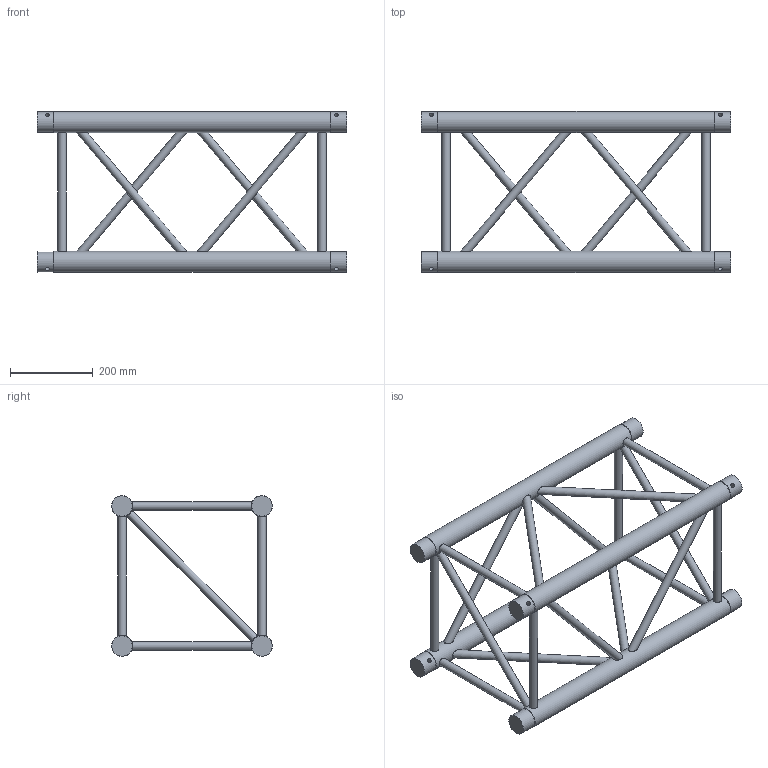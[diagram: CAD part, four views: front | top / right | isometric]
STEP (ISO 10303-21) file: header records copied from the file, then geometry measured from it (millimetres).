
FILE_DESCRIPTION(/* description */ (''),/* implementation_level */ '2;1');
FILE_NAME(/* name */ 'M:\Symbolen\STP\40-er truss\111080192.stp',/* time_stamp */ '2015-02-26T15:09:11+01:00',/* author */ ('Stephan'),/* organization */ (''),/* preprocessor_version */ 'ST-DEVELOPER v15.6',/* originating_system */ 'Autodesk Inventor 2015',/* authorisation */ '');
FILE_SCHEMA (('AUTOMOTIVE_DESIGN { 1 0 10303 214 3 1 1 }'));
Length unit declared in the file: millimetre
Products named in the file (1): 160023951
Bounding box: 750 x 389.98 x 389.98 mm (x, y, z)
Volume: 7997346.4 mm3; surface area: 909749.9 mm2
Topology: 22 solids, 22 shells, 130 faces, 226 edges, 140 vertices
Faces by surface type: plane 84, cylinder 38, cone 8
Full cylindrical faces by diameter (mm): 10 x8, 20 x18, 49.5 x8, 51 x4
Entity records: 3673 total; most frequent: CARTESIAN_POINT 987, DIRECTION 494, ORIENTED_EDGE 392, EDGE_LOOP 232, AXIS2_PLACEMENT_3D 231, EDGE_CURVE 164, STYLED_ITEM 133, VERTEX_POINT 132
